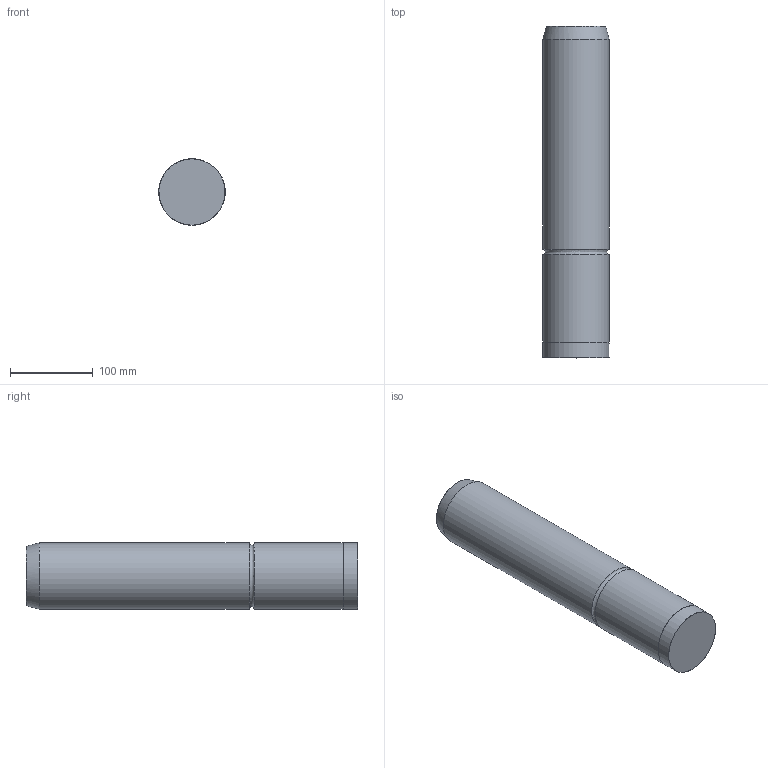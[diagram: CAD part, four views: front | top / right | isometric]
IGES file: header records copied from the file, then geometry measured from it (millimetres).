
Start section: Missler Software BP 521, 31674 Labege Cedex, France Tel   : +33 (0)5 61 00 03 00 Fax   : +33 (0)5 61 00 03 03 Email : sup.topsolid@topsolid.com
Global section: file name: C:\Documents and Settings\EXPER\Desktop\D12\D12_80400.igs; native system: TopSolid v605250 Missler Software; preprocessor: IGES preprocessor v100000; date: 030203.144557; units: millimetre
Bounding box: 80 x 400 x 80 mm (x, y, z)
Surface area: 110435.7 mm2 (no closed solid volume)
Topology: 0 solids, 0 shells, 8 faces, 143 edges, 138 vertices
Faces by surface type: bspline 8
